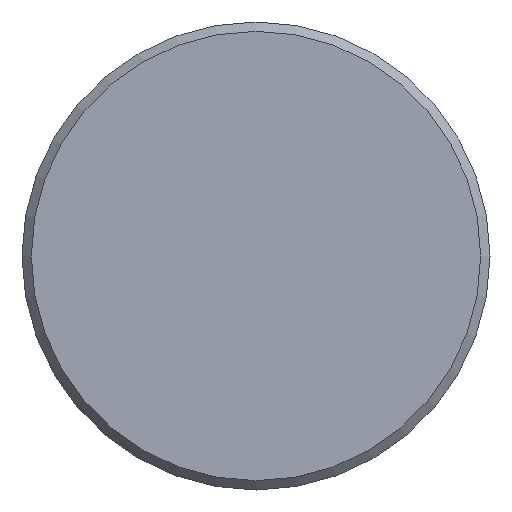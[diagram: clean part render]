
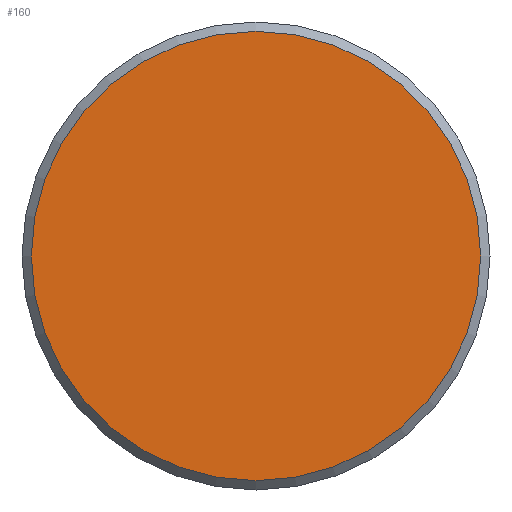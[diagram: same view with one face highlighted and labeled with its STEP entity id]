
A CAD part, front view. The second image highlights one B-rep face of the part: STEP entity #160.
In plain terms, the highlighted planar face has unit normal (0, -1, 0).
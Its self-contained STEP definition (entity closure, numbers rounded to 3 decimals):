
#160 = ADVANCED_FACE( '', ( #322 ), #323, .F. );
#322 = FACE_OUTER_BOUND( '', #518, .T. );
#323 = PLANE( '', #519 );
#518 = EDGE_LOOP( '', ( #780 ) );
#519 = AXIS2_PLACEMENT_3D( '', #781, #782, #783 );
#780 = ORIENTED_EDGE( '', *, *, #1178, .T. );
#781 = CARTESIAN_POINT( '', ( 12., 0., 0. ) );
#782 = DIRECTION( '', ( 0., 1., 0. ) );
#783 = DIRECTION( '', ( 0., 0., 1. ) );
#1178 = EDGE_CURVE( '', #1370, #1370, #1371, .T. );
#1370 = VERTEX_POINT( '', #1719 );
#1371 = CIRCLE( '', #1720, 12. );
#1719 = CARTESIAN_POINT( '', ( 0., 0., -12. ) );
#1720 = AXIS2_PLACEMENT_3D( '', #2084, #2085, #2086 );
#2084 = CARTESIAN_POINT( '', ( 0., 0., 0. ) );
#2085 = DIRECTION( '', ( 0., -1., 0. ) );
#2086 = DIRECTION( '', ( 0., 0., -1. ) );
